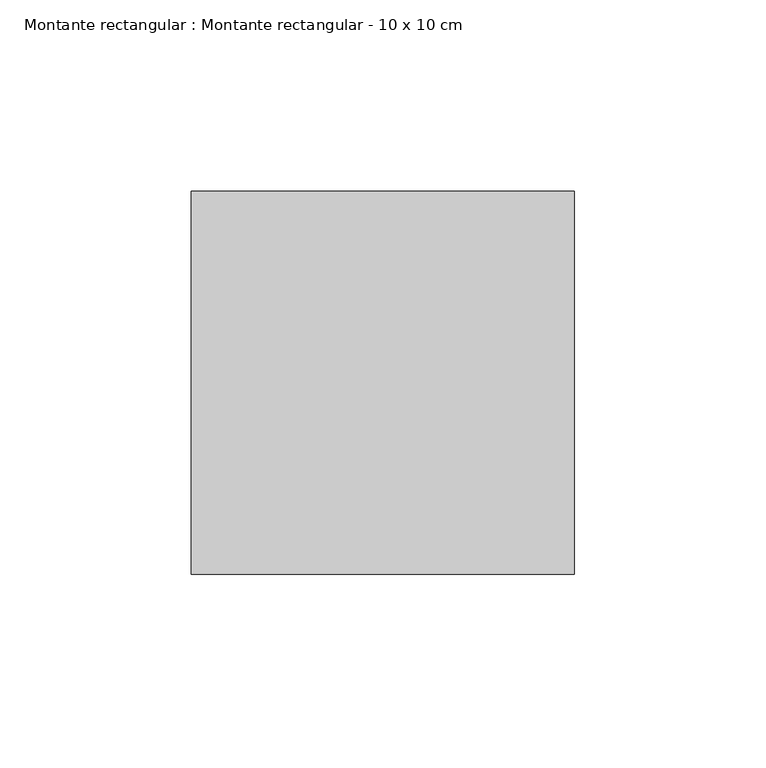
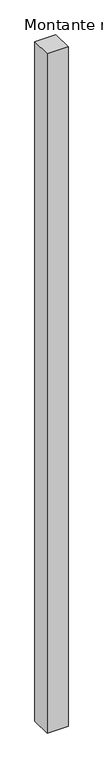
"""IFC4 building model written with IfcOpenShell, lengths in millimetres: member geometry, Montante rectangular : Montante rectangular - 10 x 10 cm."""

from ifc_helpers import new_model, si_unit, frame, origin, place, context, project, spatial, polyline, outline, extrude, source, transform, mapped, element, save


def montante_rectangular_montante_rectangular_10_x_10_cm_9985ee12(model_context):
    return source(origin(), model_context, "Body", "SweptSolid", [
        extrude(outline(polyline([(-100.0, -50.0), (-100.0, 50.0), (0.0, 50.0), (0.0, -50.0), (-100.0, -50.0)])), frame((0.0, 0.0, -3421.7395617), z_axis=(0.0, 0.0, 1.0), x_axis=(1.0, 0.0, 0.0)), (0.0, 0.0, 1.0), 3421.7395617),
    ])


if __name__ == "__main__":
    model = new_model("IFC4")
    model_context = context("Model", 3, world=origin())
    ifc_project = project(units=[si_unit("LENGTHUNIT", "METRE", prefix="MILLI")], contexts=[model_context])
    site = spatial("IfcSite", under=ifc_project)
    building = spatial("IfcBuilding", under=site)
    placement = place(None, origin())
    montante_rectangular_montante_rectangular_10_x_10_cm_shape = montante_rectangular_montante_rectangular_10_x_10_cm_9985ee12(model_context)
    element("IfcMember", 1, ObjectType="Montante rectangular : Montante rectangular - 10 x 10 cm", at=placement, inside=building, context=model_context, shape_type="MappedRepresentation", body=[
        mapped(montante_rectangular_montante_rectangular_10_x_10_cm_shape, transform((0.0, 0.0, 0.0), x_axis=(1.0, 0.0, 0.0), y_axis=(0.0, 1.0, 0.0), z_axis=(0.0, 0.0, 1.0))),
    ])
    save(model, "model.ifc")
